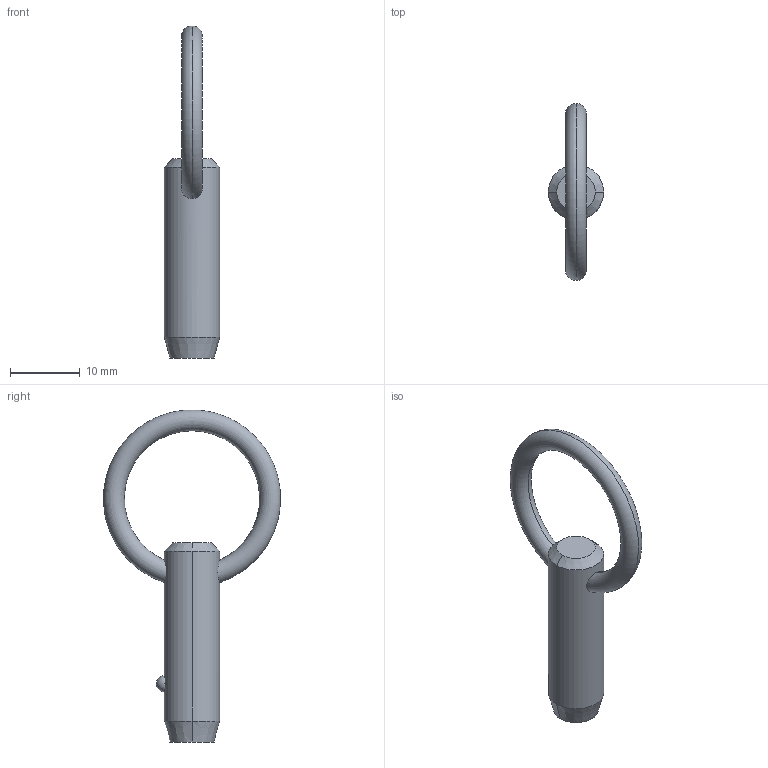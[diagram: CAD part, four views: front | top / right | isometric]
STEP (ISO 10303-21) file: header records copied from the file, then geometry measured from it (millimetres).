
FILE_DESCRIPTION (( 'STEP AP203' ), '1' );
FILE_NAME ('P1250.031-050.step', '2019-07-29T19:47:03', ( '' ), ( '' ), 'SwSTEP 2.0', 'SolidWorks 2017', '' );
FILE_SCHEMA (( 'CONFIG_CONTROL_DESIGN' ));
Length unit declared in the file: millimetre
Products named in the file (1): P1250.031-050
Bounding box: 7.93 x 25.36 x 47.6 mm (x, y, z)
Volume: 1811.6 mm3; surface area: 1347.1 mm2
Topology: 1 solids, 1 shells, 12 faces, 28 edges, 17 vertices
Faces by surface type: cone 4, torus 2, sphere 2, cylinder 2, plane 2
Entity records: 509 total; most frequent: CARTESIAN_POINT 176, DIRECTION 56, ORIENTED_EDGE 48, AXIS2_PLACEMENT_3D 25, EDGE_CURVE 24, VERTEX_POINT 15, EDGE_LOOP 15, FACE_OUTER_BOUND 12
